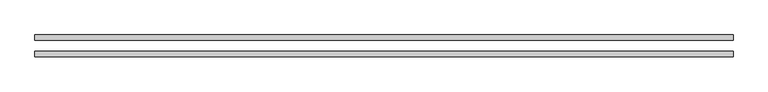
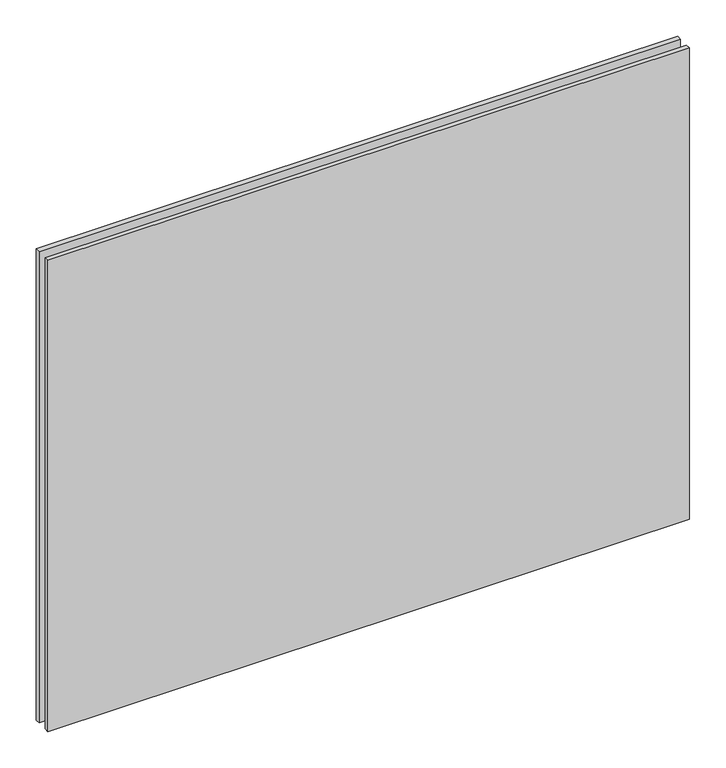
"""IFC4 building model written with IfcOpenShell, lengths in millimetres: plate geometry, Aluk_Pannello di facciata vetro : Aluk_Pannello di facciata vetro."""

from ifc_helpers import new_model, si_unit, origin, origin_with_axes, place, context, project, spatial, polyline, outline, extrude, source, transform, mapped, element, save


def plate_78587679(model_context):
    return source(origin(), model_context, "Body", "SweptSolid", [
        extrude(outline(polyline([(509.5714286, -8.0), (509.5714286, -16.0), (-509.5714286, -16.0), (-509.5714286, -8.0), (509.5714286, -8.0)])), origin_with_axes(), (0.0, 0.0, 1.0), 791.2),
        extrude(outline(polyline([(509.5714286, 16.0), (509.5714286, 8.0), (-509.5714286, 8.0), (-509.5714286, 16.0), (509.5714286, 16.0)])), origin_with_axes(), (0.0, 0.0, 1.0), 791.2),
    ])


if __name__ == "__main__":
    model = new_model("IFC4")
    model_context = context("Model", 3, world=origin())
    ifc_project = project(units=[si_unit("LENGTHUNIT", "METRE", prefix="MILLI")], contexts=[model_context])
    site = spatial("IfcSite", under=ifc_project)
    building = spatial("IfcBuilding", under=site)
    placement = place(None, origin())
    plate_shape = plate_78587679(model_context)
    element("IfcPlate", 1, ObjectType="Aluk_Pannello di facciata vetro : Aluk_Pannello di facciata vetro", at=placement, inside=building, context=model_context, shape_type="MappedRepresentation", body=[
        mapped(plate_shape, transform((0.0, 0.0, 0.0), x_axis=(1.0, 0.0, 0.0), y_axis=(0.0, 1.0, 0.0), z_axis=(0.0, 0.0, 1.0))),
    ])
    save(model, "model.ifc")
